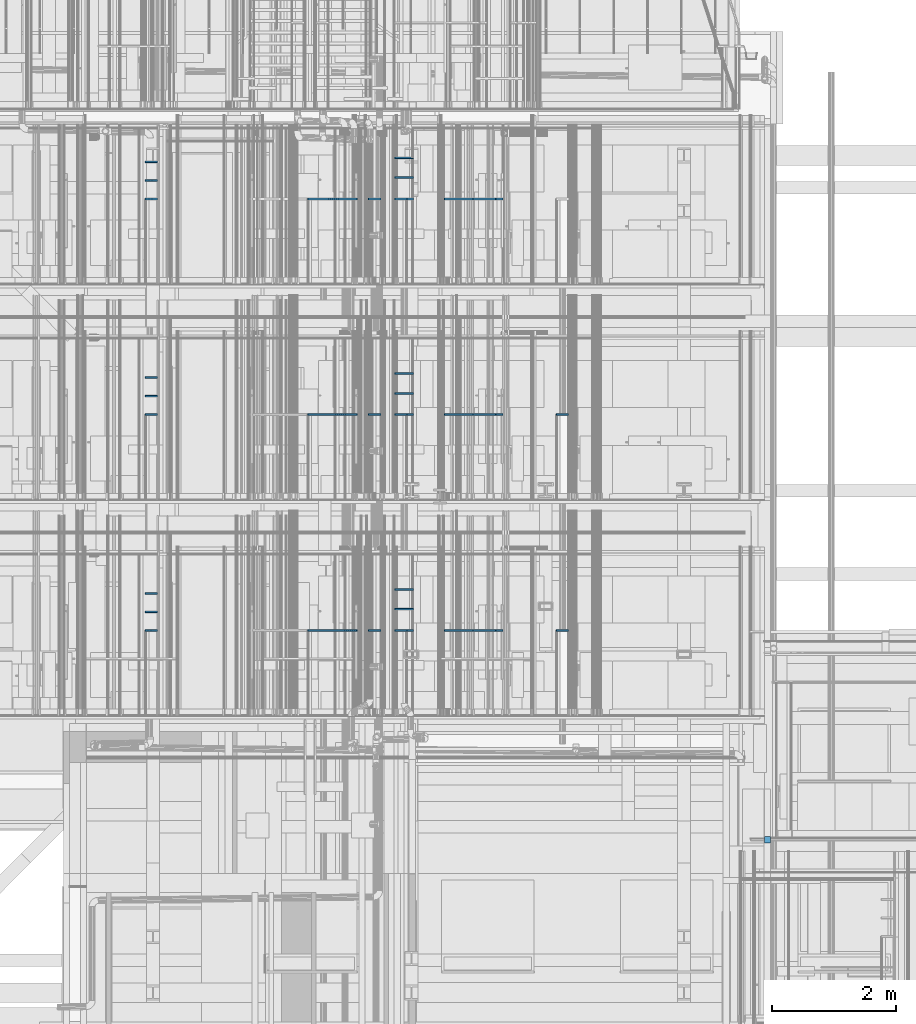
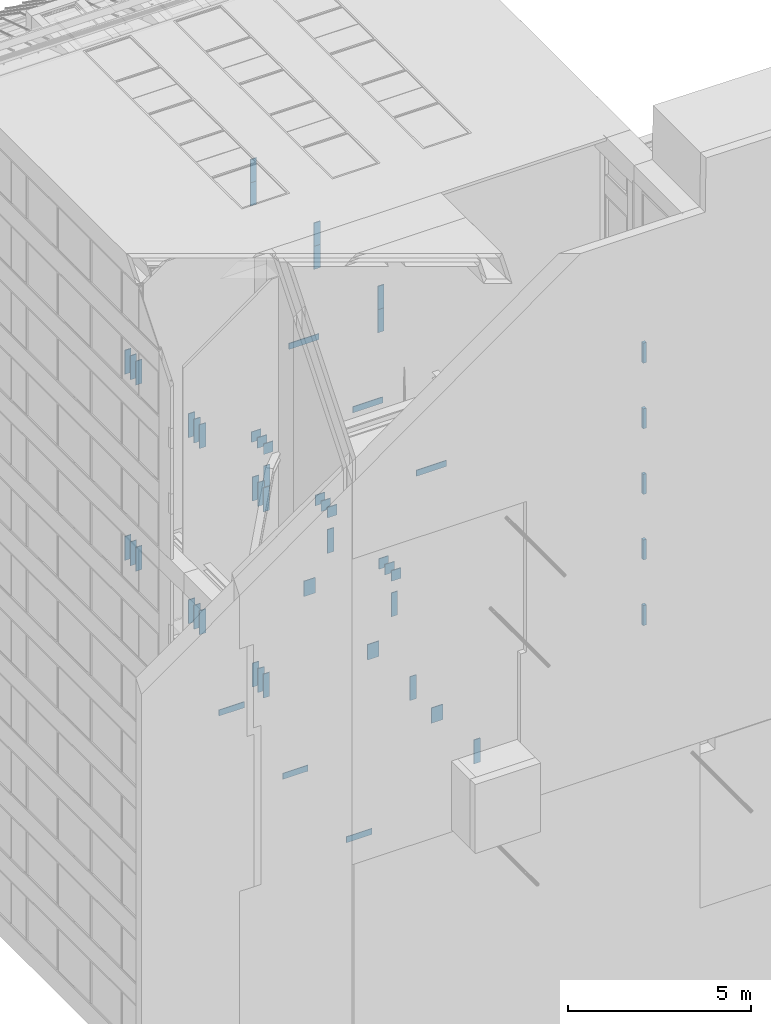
# One storey, part 300 of 583: 52 slabs.
"""IFC2X3 building model written with IfcOpenShell, lengths in metres."""

from ifc_helpers import new_model, entity, si_unit, converted_unit, derived_unit, money_unit, direction, frame, origin_with_axes, place, context, subcontext, project, spatial, faceted_brep, material, type_object, element, save


model = new_model("IFC2X3")

# Units and contexts
model_context = context("Model", 3, precision=1e-05, world=origin_with_axes(), true_north=direction((0.0, 1.0)))
body_context = subcontext(model_context, "Body", "Model", "MODEL_VIEW", scale=1.0)
ifc_project = project(units=[si_unit("LENGTHUNIT", "METRE"), si_unit("AREAUNIT", "SQUARE_METRE"), si_unit("VOLUMEUNIT", "CUBIC_METRE"), si_unit("ABSORBEDDOSEUNIT", "GRAY"), si_unit("AMOUNTOFSUBSTANCEUNIT", "MOLE"), si_unit("DOSEEQUIVALENTUNIT", "SIEVERT"), si_unit("ELECTRICCAPACITANCEUNIT", "FARAD"), si_unit("ELECTRICCHARGEUNIT", "COULOMB"), si_unit("ELECTRICCONDUCTANCEUNIT", "SIEMENS"), si_unit("ELECTRICCURRENTUNIT", "AMPERE"), si_unit("ELECTRICRESISTANCEUNIT", "OHM"), si_unit("ELECTRICVOLTAGEUNIT", "VOLT"), si_unit("ENERGYUNIT", "JOULE"), si_unit("FORCEUNIT", "NEWTON"), si_unit("FREQUENCYUNIT", "HERTZ"), si_unit("ILLUMINANCEUNIT", "LUX"), si_unit("INDUCTANCEUNIT", "HENRY"), si_unit("LUMINOUSFLUXUNIT", "LUMEN"), si_unit("LUMINOUSINTENSITYUNIT", "CANDELA"), si_unit("MAGNETICFLUXDENSITYUNIT", "TESLA"), si_unit("MAGNETICFLUXUNIT", "WEBER"), si_unit("MASSUNIT", "GRAM"), converted_unit("PLANEANGLEUNIT", "degree", entity("IfcReal", 0.0174532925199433), si_unit("PLANEANGLEUNIT", "RADIAN"), dimensions=[0, 0, 0, 0, 0, 0, 0]), si_unit("POWERUNIT", "WATT"), si_unit("PRESSUREUNIT", "PASCAL"), si_unit("RADIOACTIVITYUNIT", "BECQUEREL"), si_unit("SOLIDANGLEUNIT", "STERADIAN"), si_unit("THERMODYNAMICTEMPERATUREUNIT", "KELVIN"), si_unit("TIMEUNIT", "SECOND"), derived_unit("ACCELERATIONUNIT", [(si_unit("LENGTHUNIT", "METRE"), 1), (si_unit("TIMEUNIT", "SECOND"), -2)]), derived_unit("ANGULARVELOCITYUNIT", [(converted_unit("PLANEANGLEUNIT", "degree", entity("IfcReal", 0.0174532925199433), si_unit("PLANEANGLEUNIT", "RADIAN"), dimensions=[0, 0, 0, 0, 0, 0, 0]), 1), (si_unit("TIMEUNIT", "SECOND"), -1)]), derived_unit("CURVATUREUNIT", [(converted_unit("PLANEANGLEUNIT", "degree", entity("IfcReal", 0.0174532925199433), si_unit("PLANEANGLEUNIT", "RADIAN"), dimensions=[0, 0, 0, 0, 0, 0, 0]), 1), (si_unit("LENGTHUNIT", "METRE"), -1)]), derived_unit("DYNAMICVISCOSITYUNIT", [(si_unit("PRESSUREUNIT", "PASCAL"), 1), (si_unit("TIMEUNIT", "SECOND"), 1)]), derived_unit("HEATFLUXDENSITYUNIT", [(si_unit("POWERUNIT", "WATT"), 1), (si_unit("LENGTHUNIT", "METRE"), -2)]), derived_unit("HEATINGVALUEUNIT", [(si_unit("ENERGYUNIT", "JOULE"), 1), (si_unit("MASSUNIT", "GRAM"), -1)]), derived_unit("INTEGERCOUNTRATEUNIT", [(si_unit("TIMEUNIT", "SECOND"), -1)]), derived_unit("IONCONCENTRATIONUNIT", [(si_unit("MASSUNIT", "GRAM"), 1), (si_unit("VOLUMEUNIT", "CUBIC_METRE"), -1)]), derived_unit("ISOTHERMALMOISTURECAPACITYUNIT", [(si_unit("VOLUMEUNIT", "CUBIC_METRE"), 1), (si_unit("MASSUNIT", "GRAM"), -1)]), derived_unit("KINEMATICVISCOSITYUNIT", [(si_unit("AREAUNIT", "SQUARE_METRE"), 1), (si_unit("TIMEUNIT", "SECOND"), -1)]), derived_unit("LINEARFORCEUNIT", [(si_unit("FORCEUNIT", "NEWTON"), 1), (si_unit("LENGTHUNIT", "METRE"), -1)]), derived_unit("LINEARMOMENTUNIT", [(si_unit("FORCEUNIT", "NEWTON"), 1), (si_unit("LENGTHUNIT", "METRE"), -1)]), derived_unit("LINEARSTIFFNESSUNIT", [(si_unit("FORCEUNIT", "NEWTON"), 1), (si_unit("LENGTHUNIT", "METRE"), -1)]), derived_unit("LINEARVELOCITYUNIT", [(si_unit("LENGTHUNIT", "METRE"), 1), (si_unit("TIMEUNIT", "SECOND"), -1)]), derived_unit("LUMINOUSINTENSITYDISTRIBUTIONUNIT", [(si_unit("LUMINOUSINTENSITYUNIT", "CANDELA"), 1), (si_unit("LUMINOUSFLUXUNIT", "LUMEN"), -1)]), derived_unit("MASSDENSITYUNIT", [(si_unit("MASSUNIT", "GRAM"), 1), (si_unit("VOLUMEUNIT", "CUBIC_METRE"), -1)]), derived_unit("MASSFLOWRATEUNIT", [(si_unit("MASSUNIT", "GRAM"), 1), (si_unit("TIMEUNIT", "SECOND"), -1)]), derived_unit("MASSPERLENGTHUNIT", [(si_unit("MASSUNIT", "GRAM"), 1), (si_unit("LENGTHUNIT", "METRE"), -1)]), derived_unit("MODULUSOFELASTICITYUNIT", [(si_unit("FORCEUNIT", "NEWTON"), 1), (si_unit("AREAUNIT", "SQUARE_METRE"), -1)]), derived_unit("MODULUSOFLINEARSUBGRADEREACTIONUNIT", [(si_unit("FORCEUNIT", "NEWTON"), 1), (si_unit("LENGTHUNIT", "METRE"), -2)]), derived_unit("MODULUSOFROTATIONALSUBGRADEREACTIONUNIT", [(si_unit("FORCEUNIT", "NEWTON"), 1), (si_unit("LENGTHUNIT", "METRE"), 1)]), derived_unit("MODULUSOFSUBGRADEREACTIONUNIT", [(si_unit("FORCEUNIT", "NEWTON"), 1), (si_unit("VOLUMEUNIT", "CUBIC_METRE"), -1)]), derived_unit("MOISTUREDIFFUSIVITYUNIT", [(si_unit("VOLUMEUNIT", "CUBIC_METRE"), 1), (si_unit("TIMEUNIT", "SECOND"), -1)]), derived_unit("MOLECULARWEIGHTUNIT", [(si_unit("MASSUNIT", "GRAM"), 1), (si_unit("AMOUNTOFSUBSTANCEUNIT", "MOLE"), -1)]), derived_unit("PLANARFORCEUNIT", [(si_unit("FORCEUNIT", "NEWTON"), 1), (si_unit("LENGTHUNIT", "METRE"), -2)]), derived_unit("ROTATIONALFREQUENCYUNIT", [(si_unit("TIMEUNIT", "SECOND"), -1)]), derived_unit("ROTATIONALMASSUNIT", [(si_unit("MASSUNIT", "GRAM"), 1), (si_unit("LENGTHUNIT", "METRE"), 2)]), derived_unit("ROTATIONALSTIFFNESSUNIT", [(si_unit("FORCEUNIT", "NEWTON"), 1), (si_unit("LENGTHUNIT", "METRE"), 1), (converted_unit("PLANEANGLEUNIT", "degree", entity("IfcReal", 0.0174532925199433), si_unit("PLANEANGLEUNIT", "RADIAN"), dimensions=[0, 0, 0, 0, 0, 0, 0]), -1)]), derived_unit("SECTIONAREAINTEGRALUNIT", [(si_unit("LENGTHUNIT", "METRE"), 5)]), derived_unit("SECTIONMODULUSUNIT", [(si_unit("LENGTHUNIT", "METRE"), 3)]), derived_unit("SHEARMODULUSUNIT", [(si_unit("FORCEUNIT", "NEWTON"), 1), (si_unit("AREAUNIT", "SQUARE_METRE"), -1)]), derived_unit("SOUNDPOWERUNIT", [(si_unit("ENERGYUNIT", "JOULE"), 1), (si_unit("TIMEUNIT", "SECOND"), -1)]), derived_unit("SPECIFICHEATCAPACITYUNIT", [(si_unit("FORCEUNIT", "NEWTON"), 1), (si_unit("MASSUNIT", "GRAM"), -1), (si_unit("THERMODYNAMICTEMPERATUREUNIT", "KELVIN"), -1)]), derived_unit("TEMPERATUREGRADIENTUNIT", [(si_unit("THERMODYNAMICTEMPERATUREUNIT", "KELVIN"), 1), (si_unit("LENGTHUNIT", "METRE"), -1)]), derived_unit("THERMALADMITTANCEUNIT", [(si_unit("POWERUNIT", "WATT"), 1), (si_unit("AREAUNIT", "SQUARE_METRE"), -1), (si_unit("THERMODYNAMICTEMPERATUREUNIT", "KELVIN"), -1)]), derived_unit("THERMALCONDUCTANCEUNIT", [(si_unit("POWERUNIT", "WATT"), 1), (si_unit("LENGTHUNIT", "METRE"), -1), (si_unit("THERMODYNAMICTEMPERATUREUNIT", "KELVIN"), -1)]), derived_unit("THERMALEXPANSIONCOEFFICIENTUNIT", [(si_unit("THERMODYNAMICTEMPERATUREUNIT", "KELVIN"), -1)]), derived_unit("THERMALRESISTANCEUNIT", [(si_unit("AREAUNIT", "SQUARE_METRE"), 1), (si_unit("POWERUNIT", "WATT"), -1)]), derived_unit("THERMALTRANSMITTANCEUNIT", [(si_unit("POWERUNIT", "WATT"), 1), (si_unit("AREAUNIT", "SQUARE_METRE"), -1), (si_unit("THERMODYNAMICTEMPERATUREUNIT", "KELVIN"), -1)]), derived_unit("TORQUEUNIT", [(si_unit("FORCEUNIT", "NEWTON"), 1), (si_unit("LENGTHUNIT", "METRE"), 1)]), derived_unit("VAPORPERMEABILITYUNIT", [(si_unit("MASSUNIT", "GRAM"), 1), (si_unit("TIMEUNIT", "SECOND"), -1)]), derived_unit("VOLUMETRICFLOWRATEUNIT", [(si_unit("VOLUMEUNIT", "CUBIC_METRE"), 1), (si_unit("TIMEUNIT", "SECOND"), -1)]), derived_unit("WARPINGCONSTANTUNIT", [(si_unit("LENGTHUNIT", "METRE"), 6)]), derived_unit("WARPINGMOMENTUNIT", [(si_unit("FORCEUNIT", "NEWTON"), 1), (si_unit("LENGTHUNIT", "METRE"), 2)]), money_unit("GBP")], contexts=[model_context])

# Site, building, storey
site_placement = place(None, origin_with_axes())
site = spatial("IfcSite", under=ifc_project, at=site_placement, Name="Site", CompositionType="ELEMENT")
building_placement = place(site_placement, origin_with_axes())
building = spatial("IfcBuilding", under=site, at=building_placement, Name="Building01", CompositionType="ELEMENT")
storey_placement = place(building_placement, frame((0.0, 0.0, 20.78), z_axis=(0.0, 0.0, 1.0), x_axis=(1.0, 0.0, 0.0)))
storey = spatial("IfcBuildingStorey", under=building, at=storey_placement, Name="RL", CompositionType="ELEMENT", Elevation=20.78)

# Slabs
ifc_material_1 = material(Name="A_BSUK_Slabs")
slab_type = type_object("IfcSlabType", Name="A-FloorsSlabs A_BSUK_Slabs", PredefinedType="FLOOR")
placement = place(storey_placement, frame((0.0, 0.0, -20.78), z_axis=(0.0, 0.0, 1.0), x_axis=(1.0, 0.0, 0.0)))
element("IfcSlab", 1, at=placement, inside=storey, type_object=slab_type, material=ifc_material_1, Name="A-FloorsSlabs A_BSUK_Slabs", ObjectType="CompoundSlabLeaf", context=body_context, shape_type="Brep", body=[
    faceted_brep([(14.799671, 3.099759, 19.74), (14.799671, 3.199759, 19.74), (14.9, 3.199759, 19.74), (14.9, 3.099759, 19.74), (14.8, 3.099759, 20.41), (14.8, 3.199759, 20.41), (14.9, 3.099759, 20.41), (14.9, 3.199759, 20.41)], [[[0, 1, 2, 3]], [[4, 5, 1, 0]], [[6, 7, 5, 4]], [[3, 2, 7, 6]], [[1, 5, 7, 2]], [[3, 6, 4, 0]]]),
])
element("IfcSlab", 2, at=placement, inside=storey, type_object=slab_type, material=ifc_material_1, Name="A-FloorsSlabs A_BSUK_Slabs", ObjectType="CompoundSlabLeaf", context=body_context, shape_type="Brep", body=[
    faceted_brep([(14.799671, 3.099759, 17.55), (14.799671, 3.199759, 17.55), (14.9, 3.199759, 17.55), (14.9, 3.099759, 17.55), (14.8, 3.099759, 18.22), (14.8, 3.199759, 18.22), (14.9, 3.099759, 18.22), (14.9, 3.199759, 18.22)], [[[0, 1, 2, 3]], [[4, 5, 1, 0]], [[6, 7, 5, 4]], [[3, 2, 7, 6]], [[1, 5, 7, 2]], [[3, 6, 4, 0]]]),
])
element("IfcSlab", 3, at=placement, inside=storey, type_object=slab_type, material=ifc_material_1, Name="A-FloorsSlabs A_BSUK_Slabs", ObjectType="CompoundSlabLeaf", context=body_context, shape_type="Brep", body=[
    faceted_brep([(14.799671, 3.099759, 15.36), (14.799671, 3.199759, 15.36), (14.9, 3.199759, 15.36), (14.9, 3.099759, 15.36), (14.8, 3.099759, 16.03), (14.8, 3.199759, 16.03), (14.9, 3.099759, 16.03), (14.9, 3.199759, 16.03)], [[[0, 1, 2, 3]], [[4, 5, 1, 0]], [[6, 7, 5, 4]], [[3, 2, 7, 6]], [[1, 5, 7, 2]], [[3, 6, 4, 0]]]),
])
element("IfcSlab", 4, at=placement, inside=storey, type_object=slab_type, material=ifc_material_1, Name="A-FloorsSlabs A_BSUK_Slabs", ObjectType="CompoundSlabLeaf", context=body_context, shape_type="Brep", body=[
    faceted_brep([(14.799671, 3.099759, 13.17), (14.799671, 3.199759, 13.17), (14.9, 3.199759, 13.17), (14.9, 3.099759, 13.17), (14.8, 3.099759, 13.84), (14.8, 3.199759, 13.84), (14.9, 3.099759, 13.84), (14.9, 3.199759, 13.84)], [[[0, 1, 2, 3]], [[4, 5, 1, 0]], [[6, 7, 5, 4]], [[3, 2, 7, 6]], [[1, 5, 7, 2]], [[3, 6, 4, 0]]]),
])
element("IfcSlab", 5, at=placement, inside=storey, type_object=slab_type, material=ifc_material_1, Name="A-FloorsSlabs A_BSUK_Slabs", ObjectType="CompoundSlabLeaf", context=body_context, shape_type="Brep", body=[
    faceted_brep([(14.799671, 3.099759, 10.98), (14.799671, 3.199759, 10.98), (14.9, 3.199759, 10.98), (14.9, 3.099759, 10.98), (14.8, 3.099759, 11.65), (14.8, 3.199759, 11.65), (14.9, 3.099759, 11.65), (14.9, 3.199759, 11.65)], [[[0, 1, 2, 3]], [[4, 5, 1, 0]], [[6, 7, 5, 4]], [[3, 2, 7, 6]], [[1, 5, 7, 2]], [[3, 6, 4, 0]]]),
])
ifc_material_2 = material(Name="A_BSUK_Ceramic_WallTiles")
for number, where, z_axis, x_axis, name in (
    (6, (4.779998, 6.525, -3.7725), (0.0, 1.0, 0.0), (0.0, 0.0, 1.0), "A-FloorsSlabs A_BSUK_Slabs"),
    (7, (4.779998, 6.825, -3.7725), (0.0, 1.0, 0.0), (0.0, 0.0, 1.0), "A-FloorsSlabs A_BSUK_Slabs"),
    (8, (4.779998, 7.125, -3.7725), (0.0, 1.0, 0.0), (0.0, 0.0, 1.0), "A-FloorsSlabs A_BSUK_Slabs"),
):
    element("IfcSlab", number, at=place(storey_placement, frame(where, z_axis=z_axis, x_axis=x_axis)), inside=storey, type_object=slab_type, material=ifc_material_2, Name=name, ObjectType="A-FloorsSlabs A_BSUK_Slabs", context=body_context, shape_type="Brep", body=[
        faceted_brep([(0.0, 0.200002, 0.0), (0.0, 0.200002, 0.025), (0.0, 0.0, 0.025), (0.0, 0.0, 0.0), (-0.8, 3e-06, 0.025), (-0.8, 3e-06, 0.0), (-0.799999, 0.200002, 0.025), (-0.799999, 0.200002, 0.0)], [[[0, 1, 2, 3]], [[3, 2, 4, 5]], [[5, 4, 6, 7]], [[7, 6, 1, 0]], [[1, 6, 4, 2]], [[3, 5, 7, 0]]]),
    ])
for number, where, z_axis, x_axis, name in (
    (9, (4.779998, 6.525, -10.787464), (0.0, 1.0, 0.0), (0.0, 0.0, 1.0), "A-FloorsSlabs A_BSUK_Slabs"),
    (10, (4.779998, 6.825, -10.787464), (0.0, 1.0, 0.0), (0.0, 0.0, 1.0), "A-FloorsSlabs A_BSUK_Slabs"),
    (11, (4.779998, 7.125, -10.787464), (0.0, 1.0, 0.0), (0.0, 0.0, 1.0), "A-FloorsSlabs A_BSUK_Slabs"),
):
    element("IfcSlab", number, at=place(storey_placement, frame(where, z_axis=z_axis, x_axis=x_axis)), inside=storey, type_object=slab_type, material=ifc_material_2, Name=name, ObjectType="A-FloorsSlabs A_BSUK_Slabs", context=body_context, shape_type="Brep", body=[
        faceted_brep([(0.0, 0.0, 0.0), (0.0, 0.0, 0.025), (0.0, 0.200002, 0.025), (0.0, 0.200002, 0.0), (0.8, 3e-06, 0.0), (0.8, 3e-06, 0.025), (0.799999, 0.200002, 0.0), (0.799999, 0.200002, 0.025)], [[[0, 1, 2, 3]], [[4, 5, 1, 0]], [[6, 7, 5, 4]], [[3, 2, 7, 6]], [[1, 5, 7, 2]], [[3, 6, 4, 0]]]),
    ])
slab_6_placement = place(storey_placement, frame((6.914372, 6.525, -16.33927), z_axis=(0.0, 1.0, 0.0), x_axis=(1.0, 0.0, 0.0)))
element("IfcSlab", 12, at=slab_6_placement, inside=storey, type_object=slab_type, material=ifc_material_2, Name="A-FloorsSlabs A_BSUK_Slabs", ObjectType="A-FloorsSlabs A_BSUK_Slabs", context=body_context, shape_type="Brep", body=[
    faceted_brep([(0.496298, 1e-06, 0.0), (0.496298, 1e-06, 0.025), (0.496298, 0.2, 0.025), (0.496298, 0.2, 0.0), (1.296298, 4e-06, 0.0), (1.296298, 4e-06, 0.025), (1.296298, 0.2, 0.0), (1.296298, 0.2, 0.025)], [[[0, 1, 2, 3]], [[4, 5, 1, 0]], [[6, 7, 5, 4]], [[3, 2, 7, 6]], [[1, 5, 7, 2]], [[3, 6, 4, 0]]]),
])
element("IfcSlab", 13, at=placement, inside=storey, type_object=slab_type, material=ifc_material_2, Name="A-FloorsSlabs A_BSUK_Slabs", ObjectType="CompoundSlabLeaf", context=body_context, shape_type="Brep", body=[
    faceted_brep([(9.02, 6.525, 12.088871), (9.02, 6.55, 12.088871), (8.82, 6.55, 12.088871), (8.82, 6.525, 12.088871), (9.019997, 6.525, 11.288873), (9.019997, 6.55, 11.288873), (8.82, 6.525, 11.288874), (8.82, 6.55, 11.288874)], [[[0, 1, 2, 3]], [[4, 5, 1, 0]], [[6, 7, 5, 4]], [[3, 2, 7, 6]], [[1, 5, 7, 2]], [[3, 6, 4, 0]]]),
])
element("IfcSlab", 14, at=placement, inside=storey, type_object=slab_type, material=ifc_material_2, Name="A-FloorsSlabs A_BSUK_Slabs", ObjectType="CompoundSlabLeaf", context=body_context, shape_type="Brep", body=[
    faceted_brep([(8.82, 6.525, 12.478585), (8.82, 6.55, 12.478585), (9.12, 6.55, 12.478585), (9.12, 6.525, 12.478585), (8.82, 6.525, 12.828585), (8.82, 6.55, 12.828585), (9.12, 6.525, 12.828585), (9.12, 6.55, 12.828585)], [[[0, 1, 2, 3]], [[4, 5, 1, 0]], [[6, 7, 5, 4]], [[3, 2, 7, 6]], [[1, 5, 7, 2]], [[3, 6, 4, 0]]]),
])
element("IfcSlab", 15, at=placement, inside=storey, type_object=slab_type, material=ifc_material_2, Name="A-FloorsSlabs A_BSUK_Slabs", ObjectType="CompoundSlabLeaf", context=body_context, shape_type="Brep", body=[
    faceted_brep([(8.82, 7.19, 12.478585), (8.82, 7.215, 12.478585), (9.12, 7.215, 12.478585), (9.12, 7.19, 12.478585), (8.82, 7.19, 12.828585), (8.82, 7.215, 12.828585), (9.12, 7.19, 12.828585), (9.12, 7.215, 12.828585)], [[[0, 1, 2, 3]], [[4, 5, 1, 0]], [[6, 7, 5, 4]], [[3, 2, 7, 6]], [[1, 5, 7, 2]], [[3, 6, 4, 0]]]),
])
element("IfcSlab", 16, at=placement, inside=storey, type_object=slab_type, material=ifc_material_2, Name="A-FloorsSlabs A_BSUK_Slabs", ObjectType="CompoundSlabLeaf", context=body_context, shape_type="Brep", body=[
    faceted_brep([(8.82, 6.869973, 12.478585), (8.82, 6.894973, 12.478585), (9.12, 6.894973, 12.478585), (9.12, 6.869973, 12.478585), (8.82, 6.869973, 12.828585), (8.82, 6.894973, 12.828585), (9.12, 6.869973, 12.828585), (9.12, 6.894973, 12.828585)], [[[0, 1, 2, 3]], [[4, 5, 1, 0]], [[6, 7, 5, 4]], [[3, 2, 7, 6]], [[1, 5, 7, 2]], [[3, 6, 4, 0]]]),
])
element("IfcSlab", 17, at=placement, inside=storey, type_object=slab_type, material=ifc_material_2, Name="A-FloorsSlabs A_BSUK_Slabs", ObjectType="CompoundSlabLeaf", context=body_context, shape_type="Brep", body=[
    faceted_brep([(9.62, 6.525, 15.908132), (9.62, 6.55, 15.908132), (9.62, 6.55, 15.708132), (9.62, 6.525, 15.708132), (10.57, 6.525, 15.908132), (10.57, 6.55, 15.908132), (10.57, 6.525, 15.708132), (10.57, 6.55, 15.708132)], [[[0, 1, 2, 3]], [[4, 5, 1, 0]], [[6, 7, 5, 4]], [[3, 2, 7, 6]], [[1, 5, 7, 2]], [[3, 6, 4, 0]]]),
])
element("IfcSlab", 18, at=placement, inside=storey, type_object=slab_type, material=ifc_material_2, Name="A-FloorsSlabs A_BSUK_Slabs", ObjectType="CompoundSlabLeaf", context=body_context, shape_type="Brep", body=[
    faceted_brep([(11.43067, 6.525, 5.464669), (11.43067, 6.55, 5.464669), (11.63067, 6.55, 5.464669), (11.63067, 6.525, 5.464669), (11.430672, 6.525, 6.264669), (11.430672, 6.55, 6.264669), (11.63067, 6.525, 6.264669), (11.63067, 6.55, 6.264669)], [[[0, 1, 2, 3]], [[4, 5, 1, 0]], [[6, 7, 5, 4]], [[3, 2, 7, 6]], [[1, 5, 7, 2]], [[3, 6, 4, 0]]]),
])
element("IfcSlab", 19, at=placement, inside=storey, type_object=slab_type, material=ifc_material_2, Name="A-FloorsSlabs A_BSUK_Slabs", ObjectType="CompoundSlabLeaf", context=body_context, shape_type="Brep", body=[
    faceted_brep([(8.595, 6.525, 22.476661), (8.595, 6.55, 22.476661), (8.395001, 6.55, 22.476661), (8.395001, 6.525, 22.476661), (8.594999, 6.525, 21.699661), (8.594999, 6.55, 21.699661), (8.395003, 6.525, 21.699661), (8.395003, 6.55, 21.699661)], [[[0, 1, 2, 3]], [[4, 5, 1, 0]], [[6, 7, 5, 4]], [[3, 2, 7, 6]], [[1, 5, 7, 2]], [[3, 6, 4, 0]]]),
])
element("IfcSlab", 20, at=placement, inside=storey, type_object=slab_type, material=ifc_material_2, Name="A-FloorsSlabs A_BSUK_Slabs", ObjectType="CompoundSlabLeaf", context=body_context, shape_type="Brep", body=[
    faceted_brep([(8.595, 6.525, 21.699661), (8.595, 6.55, 21.699661), (8.395003, 6.55, 21.699661), (8.395003, 6.525, 21.699661), (8.595, 6.525, 20.922661), (8.595, 6.55, 20.922661), (8.394685, 6.525, 20.922661), (8.394685, 6.55, 20.922661)], [[[0, 1, 2, 3]], [[4, 5, 1, 0]], [[6, 7, 5, 4]], [[3, 2, 7, 6]], [[1, 5, 7, 2]], [[3, 6, 4, 0]]]),
])
element("IfcSlab", 21, at=placement, inside=storey, type_object=slab_type, material=ifc_material_2, Name="A-FloorsSlabs A_BSUK_Slabs", ObjectType="CompoundSlabLeaf", context=body_context, shape_type="Brep", body=[
    faceted_brep([(10.453124, 6.525, 7.804669), (10.453124, 6.55, 7.804669), (10.087704, 6.55, 7.804669), (10.087704, 6.525, 7.804669), (10.453124, 6.525, 7.289669), (10.453124, 6.55, 7.289669), (10.087704, 6.525, 7.289669), (10.087704, 6.55, 7.289669)], [[[0, 1, 2, 3]], [[4, 5, 1, 0]], [[6, 7, 5, 4]], [[3, 2, 7, 6]], [[1, 5, 7, 2]], [[3, 6, 4, 0]]]),
])
for number, where, z_axis, x_axis, name in (
    (22, (4.779998, 13.505, -3.7725), (0.0, 1.0, 0.0), (0.0, 0.0, 1.0), "A-FloorsSlabs A_BSUK_Slabs"),
    (23, (4.779998, 13.805, -3.7725), (0.0, 1.0, 0.0), (0.0, 0.0, 1.0), "A-FloorsSlabs A_BSUK_Slabs"),
    (24, (4.779998, 14.105, -3.7725), (0.0, 1.0, 0.0), (0.0, 0.0, 1.0), "A-FloorsSlabs A_BSUK_Slabs"),
):
    element("IfcSlab", number, at=place(storey_placement, frame(where, z_axis=z_axis, x_axis=x_axis)), inside=storey, type_object=slab_type, material=ifc_material_2, Name=name, ObjectType="A-FloorsSlabs A_BSUK_Slabs", context=body_context, shape_type="Brep", body=[
        faceted_brep([(0.0, 0.200002, 0.0), (0.0, 0.200002, 0.025), (0.0, 0.0, 0.025), (0.0, 0.0, 0.0), (-0.8, 3e-06, 0.025), (-0.8, 3e-06, 0.0), (-0.799999, 0.200002, 0.025), (-0.799999, 0.200002, 0.0)], [[[0, 1, 2, 3]], [[3, 2, 4, 5]], [[5, 4, 6, 7]], [[7, 6, 1, 0]], [[1, 6, 4, 2]], [[3, 5, 7, 0]]]),
    ])
for number, where, z_axis, x_axis, name in (
    (25, (4.779998, 13.505, -10.787464), (0.0, 1.0, 0.0), (0.0, 0.0, 1.0), "A-FloorsSlabs A_BSUK_Slabs"),
    (26, (4.779998, 13.805, -10.787464), (0.0, 1.0, 0.0), (0.0, 0.0, 1.0), "A-FloorsSlabs A_BSUK_Slabs"),
    (27, (4.779998, 14.105, -10.787464), (0.0, 1.0, 0.0), (0.0, 0.0, 1.0), "A-FloorsSlabs A_BSUK_Slabs"),
):
    element("IfcSlab", number, at=place(storey_placement, frame(where, z_axis=z_axis, x_axis=x_axis)), inside=storey, type_object=slab_type, material=ifc_material_2, Name=name, ObjectType="A-FloorsSlabs A_BSUK_Slabs", context=body_context, shape_type="Brep", body=[
        faceted_brep([(0.0, 0.0, 0.0), (0.0, 0.0, 0.025), (0.0, 0.200002, 0.025), (0.0, 0.200002, 0.0), (0.8, 3e-06, 0.0), (0.8, 3e-06, 0.025), (0.799999, 0.200002, 0.0), (0.799999, 0.200002, 0.025)], [[[0, 1, 2, 3]], [[4, 5, 1, 0]], [[6, 7, 5, 4]], [[3, 2, 7, 6]], [[1, 5, 7, 2]], [[3, 6, 4, 0]]]),
    ])
slab_16_placement = place(storey_placement, frame((6.914372, 13.505, -16.33927), z_axis=(0.0, 1.0, 0.0), x_axis=(1.0, 0.0, 0.0)))
element("IfcSlab", 28, at=slab_16_placement, inside=storey, type_object=slab_type, material=ifc_material_2, Name="A-FloorsSlabs A_BSUK_Slabs", ObjectType="A-FloorsSlabs A_BSUK_Slabs", context=body_context, shape_type="Brep", body=[
    faceted_brep([(0.496298, 1e-06, 0.0), (0.496298, 1e-06, 0.025), (0.496298, 0.2, 0.025), (0.496298, 0.2, 0.0), (1.296298, 4e-06, 0.0), (1.296298, 4e-06, 0.025), (1.296298, 0.2, 0.0), (1.296298, 0.2, 0.025)], [[[0, 1, 2, 3]], [[4, 5, 1, 0]], [[6, 7, 5, 4]], [[3, 2, 7, 6]], [[1, 5, 7, 2]], [[3, 6, 4, 0]]]),
])
element("IfcSlab", 29, at=placement, inside=storey, type_object=slab_type, material=ifc_material_2, Name="A-FloorsSlabs A_BSUK_Slabs", ObjectType="CompoundSlabLeaf", context=body_context, shape_type="Brep", body=[
    faceted_brep([(9.02, 13.505, 12.088871), (9.02, 13.53, 12.088871), (8.82, 13.53, 12.088871), (8.82, 13.505, 12.088871), (9.019997, 13.505, 11.288873), (9.019997, 13.53, 11.288873), (8.82, 13.505, 11.288874), (8.82, 13.53, 11.288874)], [[[0, 1, 2, 3]], [[4, 5, 1, 0]], [[6, 7, 5, 4]], [[3, 2, 7, 6]], [[1, 5, 7, 2]], [[3, 6, 4, 0]]]),
])
element("IfcSlab", 30, at=placement, inside=storey, type_object=slab_type, material=ifc_material_2, Name="A-FloorsSlabs A_BSUK_Slabs", ObjectType="CompoundSlabLeaf", context=body_context, shape_type="Brep", body=[
    faceted_brep([(8.82, 13.505, 12.478585), (8.82, 13.53, 12.478585), (9.12, 13.53, 12.478585), (9.12, 13.505, 12.478585), (8.82, 13.505, 12.828585), (8.82, 13.53, 12.828585), (9.12, 13.505, 12.828585), (9.12, 13.53, 12.828585)], [[[0, 1, 2, 3]], [[4, 5, 1, 0]], [[6, 7, 5, 4]], [[3, 2, 7, 6]], [[1, 5, 7, 2]], [[3, 6, 4, 0]]]),
])
element("IfcSlab", 31, at=placement, inside=storey, type_object=slab_type, material=ifc_material_2, Name="A-FloorsSlabs A_BSUK_Slabs", ObjectType="CompoundSlabLeaf", context=body_context, shape_type="Brep", body=[
    faceted_brep([(8.82, 14.17, 12.478585), (8.82, 14.195, 12.478585), (9.12, 14.195, 12.478585), (9.12, 14.17, 12.478585), (8.82, 14.17, 12.828585), (8.82, 14.195, 12.828585), (9.12, 14.17, 12.828585), (9.12, 14.195, 12.828585)], [[[0, 1, 2, 3]], [[4, 5, 1, 0]], [[6, 7, 5, 4]], [[3, 2, 7, 6]], [[1, 5, 7, 2]], [[3, 6, 4, 0]]]),
])
element("IfcSlab", 32, at=placement, inside=storey, type_object=slab_type, material=ifc_material_2, Name="A-FloorsSlabs A_BSUK_Slabs", ObjectType="CompoundSlabLeaf", context=body_context, shape_type="Brep", body=[
    faceted_brep([(8.82, 13.849973, 12.478585), (8.82, 13.874973, 12.478585), (9.12, 13.874973, 12.478585), (9.12, 13.849973, 12.478585), (8.82, 13.849973, 12.828585), (8.82, 13.874973, 12.828585), (9.12, 13.849973, 12.828585), (9.12, 13.874973, 12.828585)], [[[0, 1, 2, 3]], [[4, 5, 1, 0]], [[6, 7, 5, 4]], [[3, 2, 7, 6]], [[1, 5, 7, 2]], [[3, 6, 4, 0]]]),
])
element("IfcSlab", 33, at=placement, inside=storey, type_object=slab_type, material=ifc_material_2, Name="A-FloorsSlabs A_BSUK_Slabs", ObjectType="CompoundSlabLeaf", context=body_context, shape_type="Brep", body=[
    faceted_brep([(9.62, 13.505, 15.908132), (9.62, 13.53, 15.908132), (9.62, 13.53, 15.708132), (9.62, 13.505, 15.708132), (10.57, 13.505, 15.908132), (10.57, 13.53, 15.908132), (10.57, 13.505, 15.708132), (10.57, 13.53, 15.708132)], [[[0, 1, 2, 3]], [[4, 5, 1, 0]], [[6, 7, 5, 4]], [[3, 2, 7, 6]], [[1, 5, 7, 2]], [[3, 6, 4, 0]]]),
])
element("IfcSlab", 34, at=placement, inside=storey, type_object=slab_type, material=ifc_material_2, Name="A-FloorsSlabs A_BSUK_Slabs", ObjectType="CompoundSlabLeaf", context=body_context, shape_type="Brep", body=[
    faceted_brep([(8.595, 13.505, 22.476661), (8.595, 13.53, 22.476661), (8.395001, 13.53, 22.476661), (8.395001, 13.505, 22.476661), (8.594999, 13.505, 21.699661), (8.594999, 13.53, 21.699661), (8.395003, 13.505, 21.699661), (8.395003, 13.53, 21.699661)], [[[0, 1, 2, 3]], [[4, 5, 1, 0]], [[6, 7, 5, 4]], [[3, 2, 7, 6]], [[1, 5, 7, 2]], [[3, 6, 4, 0]]]),
])
element("IfcSlab", 35, at=placement, inside=storey, type_object=slab_type, material=ifc_material_2, Name="A-FloorsSlabs A_BSUK_Slabs", ObjectType="CompoundSlabLeaf", context=body_context, shape_type="Brep", body=[
    faceted_brep([(8.595, 13.505, 21.699661), (8.595, 13.53, 21.699661), (8.395003, 13.53, 21.699661), (8.395003, 13.505, 21.699661), (8.595, 13.505, 20.922661), (8.595, 13.53, 20.922661), (8.394685, 13.505, 20.922661), (8.394685, 13.53, 20.922661)], [[[0, 1, 2, 3]], [[4, 5, 1, 0]], [[6, 7, 5, 4]], [[3, 2, 7, 6]], [[1, 5, 7, 2]], [[3, 6, 4, 0]]]),
])
element("IfcSlab", 36, at=placement, inside=storey, type_object=slab_type, material=ifc_material_2, Name="A-FloorsSlabs A_BSUK_Slabs", ObjectType="CompoundSlabLeaf", context=body_context, shape_type="Brep", body=[
    faceted_brep([(10.453124, 13.505, 7.804669), (10.453124, 13.53, 7.804669), (10.087704, 13.53, 7.804669), (10.087704, 13.505, 7.804669), (10.453124, 13.505, 7.289669), (10.453124, 13.53, 7.289669), (10.087704, 13.505, 7.289669), (10.087704, 13.53, 7.289669)], [[[0, 1, 2, 3]], [[4, 5, 1, 0]], [[6, 7, 5, 4]], [[3, 2, 7, 6]], [[1, 5, 7, 2]], [[3, 6, 4, 0]]]),
])
for number, where, z_axis, x_axis, name in (
    (37, (4.779998, 10.015, -3.7725), (0.0, 1.0, 0.0), (0.0, 0.0, 1.0), "A-FloorsSlabs A_BSUK_Slabs"),
    (38, (4.779998, 10.315, -3.7725), (0.0, 1.0, 0.0), (0.0, 0.0, 1.0), "A-FloorsSlabs A_BSUK_Slabs"),
    (39, (4.779998, 10.615, -3.7725), (0.0, 1.0, 0.0), (0.0, 0.0, 1.0), "A-FloorsSlabs A_BSUK_Slabs"),
):
    element("IfcSlab", number, at=place(storey_placement, frame(where, z_axis=z_axis, x_axis=x_axis)), inside=storey, type_object=slab_type, material=ifc_material_2, Name=name, ObjectType="A-FloorsSlabs A_BSUK_Slabs", context=body_context, shape_type="Brep", body=[
        faceted_brep([(0.0, 0.200002, 0.0), (0.0, 0.200002, 0.025), (0.0, 0.0, 0.025), (0.0, 0.0, 0.0), (-0.8, 3e-06, 0.025), (-0.8, 3e-06, 0.0), (-0.799999, 0.200002, 0.025), (-0.799999, 0.200002, 0.0)], [[[0, 1, 2, 3]], [[3, 2, 4, 5]], [[5, 4, 6, 7]], [[7, 6, 1, 0]], [[1, 6, 4, 2]], [[3, 5, 7, 0]]]),
    ])
for number, where, z_axis, x_axis, name in (
    (40, (4.779998, 10.015, -10.787464), (0.0, 1.0, 0.0), (0.0, 0.0, 1.0), "A-FloorsSlabs A_BSUK_Slabs"),
    (41, (4.779998, 10.315, -10.787464), (0.0, 1.0, 0.0), (0.0, 0.0, 1.0), "A-FloorsSlabs A_BSUK_Slabs"),
    (42, (4.779998, 10.615, -10.787464), (0.0, 1.0, 0.0), (0.0, 0.0, 1.0), "A-FloorsSlabs A_BSUK_Slabs"),
):
    element("IfcSlab", number, at=place(storey_placement, frame(where, z_axis=z_axis, x_axis=x_axis)), inside=storey, type_object=slab_type, material=ifc_material_2, Name=name, ObjectType="A-FloorsSlabs A_BSUK_Slabs", context=body_context, shape_type="Brep", body=[
        faceted_brep([(0.0, 0.0, 0.0), (0.0, 0.0, 0.025), (0.0, 0.200002, 0.025), (0.0, 0.200002, 0.0), (0.8, 3e-06, 0.0), (0.8, 3e-06, 0.025), (0.799999, 0.200002, 0.0), (0.799999, 0.200002, 0.025)], [[[0, 1, 2, 3]], [[4, 5, 1, 0]], [[6, 7, 5, 4]], [[3, 2, 7, 6]], [[1, 5, 7, 2]], [[3, 6, 4, 0]]]),
    ])
slab_25_placement = place(storey_placement, frame((6.914372, 10.015, -16.33927), z_axis=(0.0, 1.0, 0.0), x_axis=(1.0, 0.0, 0.0)))
element("IfcSlab", 43, at=slab_25_placement, inside=storey, type_object=slab_type, material=ifc_material_2, Name="A-FloorsSlabs A_BSUK_Slabs", ObjectType="A-FloorsSlabs A_BSUK_Slabs", context=body_context, shape_type="Brep", body=[
    faceted_brep([(0.496298, 1e-06, 0.0), (0.496298, 1e-06, 0.025), (0.496298, 0.2, 0.025), (0.496298, 0.2, 0.0), (1.296298, 4e-06, 0.0), (1.296298, 4e-06, 0.025), (1.296298, 0.2, 0.0), (1.296298, 0.2, 0.025)], [[[0, 1, 2, 3]], [[4, 5, 1, 0]], [[6, 7, 5, 4]], [[3, 2, 7, 6]], [[1, 5, 7, 2]], [[3, 6, 4, 0]]]),
])
element("IfcSlab", 44, at=placement, inside=storey, type_object=slab_type, material=ifc_material_2, Name="A-FloorsSlabs A_BSUK_Slabs", ObjectType="CompoundSlabLeaf", context=body_context, shape_type="Brep", body=[
    faceted_brep([(9.02, 10.015, 12.088871), (9.02, 10.04, 12.088871), (8.82, 10.04, 12.088871), (8.82, 10.015, 12.088871), (9.019997, 10.015, 11.288873), (9.019997, 10.04, 11.288873), (8.82, 10.015, 11.288874), (8.82, 10.04, 11.288874)], [[[0, 1, 2, 3]], [[4, 5, 1, 0]], [[6, 7, 5, 4]], [[3, 2, 7, 6]], [[1, 5, 7, 2]], [[3, 6, 4, 0]]]),
])
element("IfcSlab", 45, at=placement, inside=storey, type_object=slab_type, material=ifc_material_2, Name="A-FloorsSlabs A_BSUK_Slabs", ObjectType="CompoundSlabLeaf", context=body_context, shape_type="Brep", body=[
    faceted_brep([(8.82, 10.015, 12.478585), (8.82, 10.04, 12.478585), (9.12, 10.04, 12.478585), (9.12, 10.015, 12.478585), (8.82, 10.015, 12.828585), (8.82, 10.04, 12.828585), (9.12, 10.015, 12.828585), (9.12, 10.04, 12.828585)], [[[0, 1, 2, 3]], [[4, 5, 1, 0]], [[6, 7, 5, 4]], [[3, 2, 7, 6]], [[1, 5, 7, 2]], [[3, 6, 4, 0]]]),
])
element("IfcSlab", 46, at=placement, inside=storey, type_object=slab_type, material=ifc_material_2, Name="A-FloorsSlabs A_BSUK_Slabs", ObjectType="CompoundSlabLeaf", context=body_context, shape_type="Brep", body=[
    faceted_brep([(8.82, 10.68, 12.478585), (8.82, 10.705, 12.478585), (9.12, 10.705, 12.478585), (9.12, 10.68, 12.478585), (8.82, 10.68, 12.828585), (8.82, 10.705, 12.828585), (9.12, 10.68, 12.828585), (9.12, 10.705, 12.828585)], [[[0, 1, 2, 3]], [[4, 5, 1, 0]], [[6, 7, 5, 4]], [[3, 2, 7, 6]], [[1, 5, 7, 2]], [[3, 6, 4, 0]]]),
])
element("IfcSlab", 47, at=placement, inside=storey, type_object=slab_type, material=ifc_material_2, Name="A-FloorsSlabs A_BSUK_Slabs", ObjectType="CompoundSlabLeaf", context=body_context, shape_type="Brep", body=[
    faceted_brep([(8.82, 10.359973, 12.478585), (8.82, 10.384973, 12.478585), (9.12, 10.384973, 12.478585), (9.12, 10.359973, 12.478585), (8.82, 10.359973, 12.828585), (8.82, 10.384973, 12.828585), (9.12, 10.359973, 12.828585), (9.12, 10.384973, 12.828585)], [[[0, 1, 2, 3]], [[4, 5, 1, 0]], [[6, 7, 5, 4]], [[3, 2, 7, 6]], [[1, 5, 7, 2]], [[3, 6, 4, 0]]]),
])
element("IfcSlab", 48, at=placement, inside=storey, type_object=slab_type, material=ifc_material_2, Name="A-FloorsSlabs A_BSUK_Slabs", ObjectType="CompoundSlabLeaf", context=body_context, shape_type="Brep", body=[
    faceted_brep([(9.62, 10.015, 15.908132), (9.62, 10.04, 15.908132), (9.62, 10.04, 15.708132), (9.62, 10.015, 15.708132), (10.57, 10.015, 15.908132), (10.57, 10.04, 15.908132), (10.57, 10.015, 15.708132), (10.57, 10.04, 15.708132)], [[[0, 1, 2, 3]], [[4, 5, 1, 0]], [[6, 7, 5, 4]], [[3, 2, 7, 6]], [[1, 5, 7, 2]], [[3, 6, 4, 0]]]),
])
element("IfcSlab", 49, at=placement, inside=storey, type_object=slab_type, material=ifc_material_2, Name="A-FloorsSlabs A_BSUK_Slabs", ObjectType="CompoundSlabLeaf", context=body_context, shape_type="Brep", body=[
    faceted_brep([(11.43067, 10.015, 5.464669), (11.43067, 10.04, 5.464669), (11.63067, 10.04, 5.464669), (11.63067, 10.015, 5.464669), (11.430672, 10.015, 6.264669), (11.430672, 10.04, 6.264669), (11.63067, 10.015, 6.264669), (11.63067, 10.04, 6.264669)], [[[0, 1, 2, 3]], [[4, 5, 1, 0]], [[6, 7, 5, 4]], [[3, 2, 7, 6]], [[1, 5, 7, 2]], [[3, 6, 4, 0]]]),
])
element("IfcSlab", 50, at=placement, inside=storey, type_object=slab_type, material=ifc_material_2, Name="A-FloorsSlabs A_BSUK_Slabs", ObjectType="CompoundSlabLeaf", context=body_context, shape_type="Brep", body=[
    faceted_brep([(8.595, 10.015, 22.476661), (8.595, 10.04, 22.476661), (8.395001, 10.04, 22.476661), (8.395001, 10.015, 22.476661), (8.594999, 10.015, 21.699661), (8.594999, 10.04, 21.699661), (8.395003, 10.015, 21.699661), (8.395003, 10.04, 21.699661)], [[[0, 1, 2, 3]], [[4, 5, 1, 0]], [[6, 7, 5, 4]], [[3, 2, 7, 6]], [[1, 5, 7, 2]], [[3, 6, 4, 0]]]),
])
element("IfcSlab", 51, at=placement, inside=storey, type_object=slab_type, material=ifc_material_2, Name="A-FloorsSlabs A_BSUK_Slabs", ObjectType="CompoundSlabLeaf", context=body_context, shape_type="Brep", body=[
    faceted_brep([(8.595, 10.015, 21.699661), (8.595, 10.04, 21.699661), (8.395003, 10.04, 21.699661), (8.395003, 10.015, 21.699661), (8.595, 10.015, 20.922661), (8.595, 10.04, 20.922661), (8.394685, 10.015, 20.922661), (8.394685, 10.04, 20.922661)], [[[0, 1, 2, 3]], [[4, 5, 1, 0]], [[6, 7, 5, 4]], [[3, 2, 7, 6]], [[1, 5, 7, 2]], [[3, 6, 4, 0]]]),
])
element("IfcSlab", 52, at=placement, inside=storey, type_object=slab_type, material=ifc_material_2, Name="A-FloorsSlabs A_BSUK_Slabs", ObjectType="CompoundSlabLeaf", context=body_context, shape_type="Brep", body=[
    faceted_brep([(10.453124, 10.015, 7.804669), (10.453124, 10.04, 7.804669), (10.087704, 10.04, 7.804669), (10.087704, 10.015, 7.804669), (10.453124, 10.015, 7.289669), (10.453124, 10.04, 7.289669), (10.087704, 10.015, 7.289669), (10.087704, 10.04, 7.289669)], [[[0, 1, 2, 3]], [[4, 5, 1, 0]], [[6, 7, 5, 4]], [[3, 2, 7, 6]], [[1, 5, 7, 2]], [[3, 6, 4, 0]]]),
])

save(model, "model.ifc")
